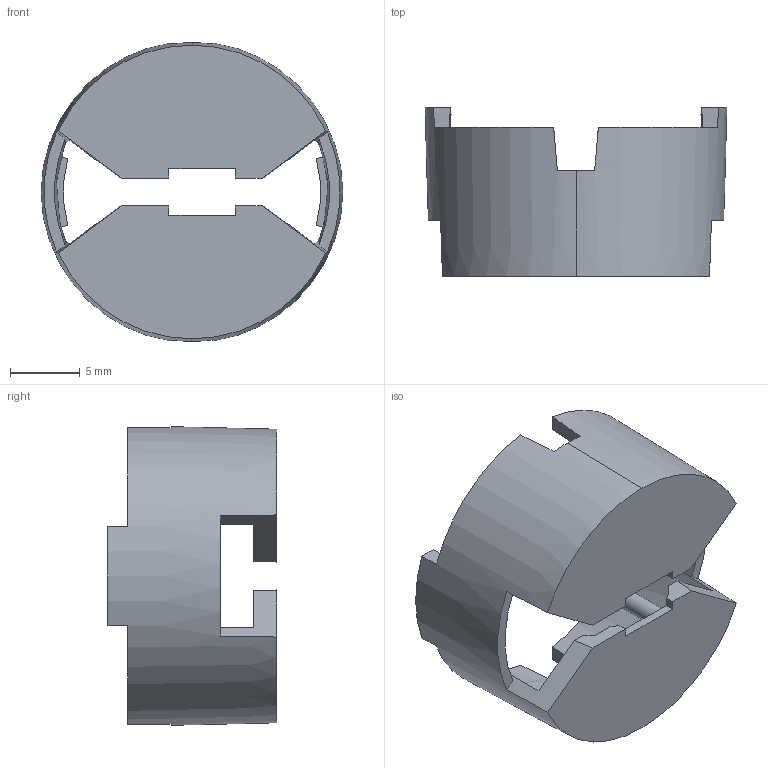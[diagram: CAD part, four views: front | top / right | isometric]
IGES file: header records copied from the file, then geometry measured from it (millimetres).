
Start section:  PTC IGES file: 60459_iss1_200207.igs
Global section: file name: 60459_iss1_200207.igs; native system: Pro/ENGINEER by Parametric Technology Corporation; preprocessor: 2006380; author: DenningtonA; organization: Unknown; date: 20070221.084811; units: millimetre
Bounding box: 21.57 x 12.1 x 21.36 mm (x, y, z)
Surface area: 1871 mm2 (no closed solid volume)
Topology: 0 solids, 0 shells, 114 faces, 608 edges, 608 vertices
Faces by surface type: bspline 68, revolution 46
